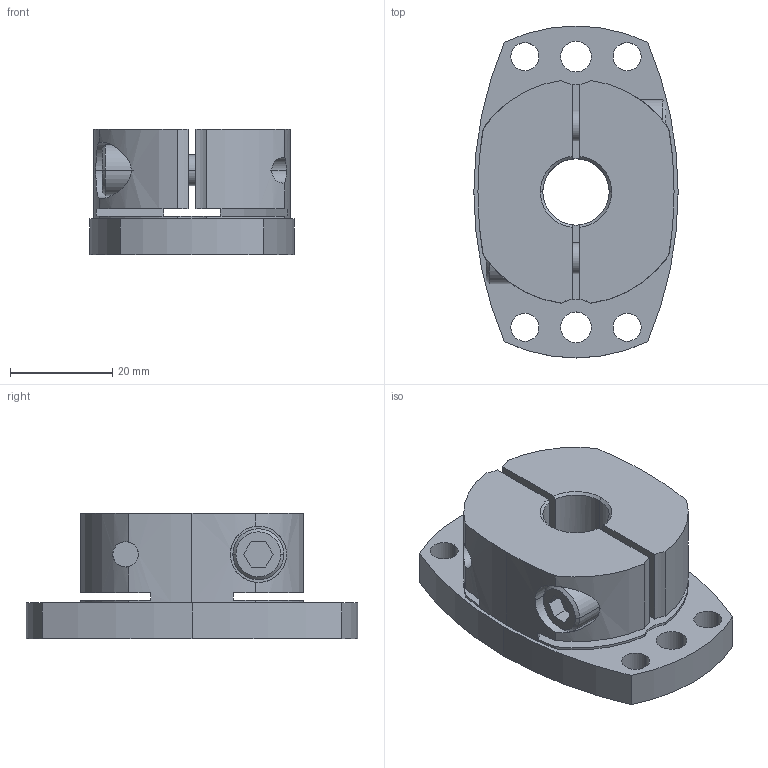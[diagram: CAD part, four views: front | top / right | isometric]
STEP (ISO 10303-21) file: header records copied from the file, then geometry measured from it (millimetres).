
FILE_DESCRIPTION((''),'2;1');
FILE_NAME('SHDB-65B-13.stp','2026-01-28T07:53:31',(''),(''),'AutoCAD STEP 2000i','AutoCAD 2000i',', , ');
FILE_SCHEMA(('CONFIG_CONTROL_DESIGN'));
Length unit declared in the file: millimetre
Products named in the file (2): SHDB-65B-12; 忣兜1
Assembly tree (1 placements, depth 2):
  SHDB-65B-12
    忣兜1
Bounding box: 40 x 65 x 24.5 mm (x, y, z)
Volume: 33597.1 mm3; surface area: 12901.7 mm2
Topology: 1 solids, 1 shells, 102 faces, 280 edges, 184 vertices
Faces by surface type: cylinder 58, plane 34, cone 10
Entity records: 3731 total; most frequent: CARTESIAN_POINT 904, DIRECTION 602, ORIENTED_EDGE 560, EDGE_CURVE 280, AXIS2_PLACEMENT_3D 238, VERTEX_POINT 184, CIRCLE 134, VECTOR 126
